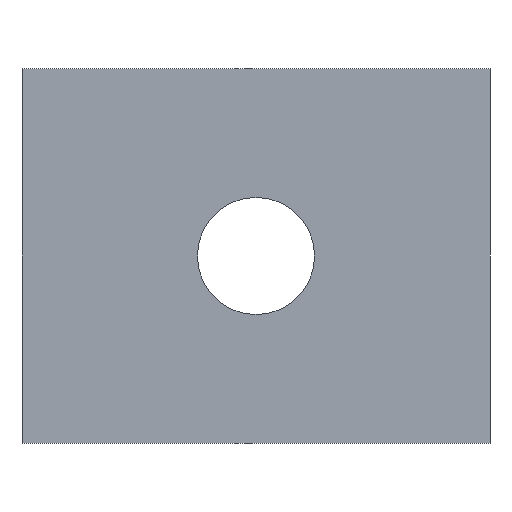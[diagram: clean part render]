
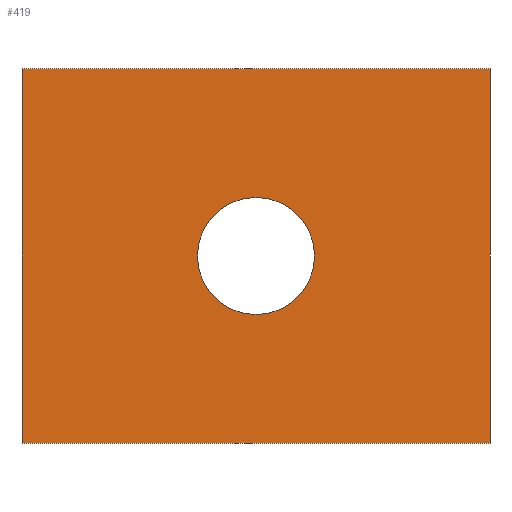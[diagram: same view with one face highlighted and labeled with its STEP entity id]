
A CAD part, left-side view. The second image highlights one B-rep face of the part: STEP entity #419.
In plain terms, the highlighted planar face has unit normal (-1, 0, 0).
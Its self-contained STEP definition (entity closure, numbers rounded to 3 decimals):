
#44 = PLANE('',#45);
#45 = AXIS2_PLACEMENT_3D('',#46,#47,#48);
#46 = CARTESIAN_POINT('',(97.1,-10.,0.));
#47 = DIRECTION('',(-0.,1.,0.));
#48 = DIRECTION('',(0.,0.,-1.));
#72 = PLANE('',#73);
#73 = AXIS2_PLACEMENT_3D('',#74,#75,#76);
#74 = CARTESIAN_POINT('',(97.1,-10.,0.));
#75 = DIRECTION('',(0.,0.,1.));
#76 = DIRECTION('',(1.,0.,0.));
#100 = PLANE('',#101);
#101 = AXIS2_PLACEMENT_3D('',#102,#103,#104);
#102 = CARTESIAN_POINT('',(97.1,10.,0.));
#103 = DIRECTION('',(-0.,1.,0.));
#104 = DIRECTION('',(0.,0.,-1.));
#126 = PLANE('',#127);
#127 = AXIS2_PLACEMENT_3D('',#128,#129,#130);
#128 = CARTESIAN_POINT('',(97.1,-10.,16.));
#129 = DIRECTION('',(0.,0.,1.));
#130 = DIRECTION('',(1.,0.,0.));
#157 = CYLINDRICAL_SURFACE('',#158,2.5);
#158 = AXIS2_PLACEMENT_3D('',#159,#160,#161);
#159 = CARTESIAN_POINT('',(98.1,0.,8.));
#160 = DIRECTION('',(1.,-0.,-0.));
#161 = DIRECTION('',(-0.,1.,-0.));
#173 = VERTEX_POINT('',#174);
#174 = CARTESIAN_POINT('',(94.3,-10.,0.));
#197 = VERTEX_POINT('',#198);
#198 = CARTESIAN_POINT('',(94.3,-10.,16.));
#219 = EDGE_CURVE('',#173,#197,#220,.T.);
#220 = SURFACE_CURVE('',#221,(#225,#232),.PCURVE_S1.);
#221 = LINE('',#222,#223);
#222 = CARTESIAN_POINT('',(94.3,-10.,0.));
#223 = VECTOR('',#224,1.);
#224 = DIRECTION('',(0.,0.,1.));
#225 = PCURVE('',#44,#226);
#226 = DEFINITIONAL_REPRESENTATION('',(#227),#231);
#227 = LINE('',#228,#229);
#228 = CARTESIAN_POINT('',(-0.,2.8));
#229 = VECTOR('',#230,1.);
#230 = DIRECTION('',(-1.,0.));
#231 = ( GEOMETRIC_REPRESENTATION_CONTEXT(2) 
PARAMETRIC_REPRESENTATION_CONTEXT() REPRESENTATION_CONTEXT('2D SPACE',''
  ) );
#232 = PCURVE('',#233,#238);
#233 = PLANE('',#234);
#234 = AXIS2_PLACEMENT_3D('',#235,#236,#237);
#235 = CARTESIAN_POINT('',(94.3,-10.,0.));
#236 = DIRECTION('',(-1.,-0.,0.));
#237 = DIRECTION('',(0.,0.,-1.));
#238 = DEFINITIONAL_REPRESENTATION('',(#239),#243);
#239 = LINE('',#240,#241);
#240 = CARTESIAN_POINT('',(-0.,-0.));
#241 = VECTOR('',#242,1.);
#242 = DIRECTION('',(-1.,-0.));
#243 = ( GEOMETRIC_REPRESENTATION_CONTEXT(2) 
PARAMETRIC_REPRESENTATION_CONTEXT() REPRESENTATION_CONTEXT('2D SPACE',''
  ) );
#250 = EDGE_CURVE('',#197,#251,#253,.T.);
#251 = VERTEX_POINT('',#252);
#252 = CARTESIAN_POINT('',(94.3,10.,16.));
#253 = SURFACE_CURVE('',#254,(#258,#265),.PCURVE_S1.);
#254 = LINE('',#255,#256);
#255 = CARTESIAN_POINT('',(94.3,-10.,16.));
#256 = VECTOR('',#257,1.);
#257 = DIRECTION('',(-0.,1.,0.));
#258 = PCURVE('',#126,#259);
#259 = DEFINITIONAL_REPRESENTATION('',(#260),#264);
#260 = LINE('',#261,#262);
#261 = CARTESIAN_POINT('',(-2.8,0.));
#262 = VECTOR('',#263,1.);
#263 = DIRECTION('',(-0.,1.));
#264 = ( GEOMETRIC_REPRESENTATION_CONTEXT(2) 
PARAMETRIC_REPRESENTATION_CONTEXT() REPRESENTATION_CONTEXT('2D SPACE',''
  ) );
#265 = PCURVE('',#233,#266);
#266 = DEFINITIONAL_REPRESENTATION('',(#267),#271);
#267 = LINE('',#268,#269);
#268 = CARTESIAN_POINT('',(-16.,-0.));
#269 = VECTOR('',#270,1.);
#270 = DIRECTION('',(-0.,-1.));
#271 = ( GEOMETRIC_REPRESENTATION_CONTEXT(2) 
PARAMETRIC_REPRESENTATION_CONTEXT() REPRESENTATION_CONTEXT('2D SPACE',''
  ) );
#299 = EDGE_CURVE('',#173,#300,#302,.T.);
#300 = VERTEX_POINT('',#301);
#301 = CARTESIAN_POINT('',(94.3,10.,0.));
#302 = SURFACE_CURVE('',#303,(#307,#314),.PCURVE_S1.);
#303 = LINE('',#304,#305);
#304 = CARTESIAN_POINT('',(94.3,-10.,0.));
#305 = VECTOR('',#306,1.);
#306 = DIRECTION('',(-0.,1.,0.));
#307 = PCURVE('',#72,#308);
#308 = DEFINITIONAL_REPRESENTATION('',(#309),#313);
#309 = LINE('',#310,#311);
#310 = CARTESIAN_POINT('',(-2.8,0.));
#311 = VECTOR('',#312,1.);
#312 = DIRECTION('',(-0.,1.));
#313 = ( GEOMETRIC_REPRESENTATION_CONTEXT(2) 
PARAMETRIC_REPRESENTATION_CONTEXT() REPRESENTATION_CONTEXT('2D SPACE',''
  ) );
#314 = PCURVE('',#233,#315);
#315 = DEFINITIONAL_REPRESENTATION('',(#316),#320);
#316 = LINE('',#317,#318);
#317 = CARTESIAN_POINT('',(-0.,-0.));
#318 = VECTOR('',#319,1.);
#319 = DIRECTION('',(-0.,-1.));
#320 = ( GEOMETRIC_REPRESENTATION_CONTEXT(2) 
PARAMETRIC_REPRESENTATION_CONTEXT() REPRESENTATION_CONTEXT('2D SPACE',''
  ) );
#349 = EDGE_CURVE('',#300,#251,#350,.T.);
#350 = SURFACE_CURVE('',#351,(#355,#362),.PCURVE_S1.);
#351 = LINE('',#352,#353);
#352 = CARTESIAN_POINT('',(94.3,10.,0.));
#353 = VECTOR('',#354,1.);
#354 = DIRECTION('',(0.,0.,1.));
#355 = PCURVE('',#100,#356);
#356 = DEFINITIONAL_REPRESENTATION('',(#357),#361);
#357 = LINE('',#358,#359);
#358 = CARTESIAN_POINT('',(-0.,2.8));
#359 = VECTOR('',#360,1.);
#360 = DIRECTION('',(-1.,0.));
#361 = ( GEOMETRIC_REPRESENTATION_CONTEXT(2) 
PARAMETRIC_REPRESENTATION_CONTEXT() REPRESENTATION_CONTEXT('2D SPACE',''
  ) );
#362 = PCURVE('',#233,#363);
#363 = DEFINITIONAL_REPRESENTATION('',(#364),#368);
#364 = LINE('',#365,#366);
#365 = CARTESIAN_POINT('',(-0.,-20.));
#366 = VECTOR('',#367,1.);
#367 = DIRECTION('',(-1.,-0.));
#368 = ( GEOMETRIC_REPRESENTATION_CONTEXT(2) 
PARAMETRIC_REPRESENTATION_CONTEXT() REPRESENTATION_CONTEXT('2D SPACE',''
  ) );
#375 = VERTEX_POINT('',#376);
#376 = CARTESIAN_POINT('',(94.3,2.5,8.));
#397 = EDGE_CURVE('',#375,#375,#398,.T.);
#398 = SURFACE_CURVE('',#399,(#404,#411),.PCURVE_S1.);
#399 = CIRCLE('',#400,2.5);
#400 = AXIS2_PLACEMENT_3D('',#401,#402,#403);
#401 = CARTESIAN_POINT('',(94.3,0.,8.));
#402 = DIRECTION('',(-1.,0.,0.));
#403 = DIRECTION('',(-0.,1.,-0.));
#404 = PCURVE('',#157,#405);
#405 = DEFINITIONAL_REPRESENTATION('',(#406),#410);
#406 = LINE('',#407,#408);
#407 = CARTESIAN_POINT('',(6.283,-3.8));
#408 = VECTOR('',#409,1.);
#409 = DIRECTION('',(-1.,0.));
#410 = ( GEOMETRIC_REPRESENTATION_CONTEXT(2) 
PARAMETRIC_REPRESENTATION_CONTEXT() REPRESENTATION_CONTEXT('2D SPACE',''
  ) );
#411 = PCURVE('',#233,#412);
#412 = DEFINITIONAL_REPRESENTATION('',(#413),#417);
#413 = CIRCLE('',#414,2.5);
#414 = AXIS2_PLACEMENT_2D('',#415,#416);
#415 = CARTESIAN_POINT('',(-8.,-10.));
#416 = DIRECTION('',(-0.,-1.));
#417 = ( GEOMETRIC_REPRESENTATION_CONTEXT(2) 
PARAMETRIC_REPRESENTATION_CONTEXT() REPRESENTATION_CONTEXT('2D SPACE',''
  ) );
#419 = ADVANCED_FACE('',(#420,#426),#233,.T.);
#420 = FACE_BOUND('',#421,.F.);
#421 = EDGE_LOOP('',(#422,#423,#424,#425));
#422 = ORIENTED_EDGE('',*,*,#219,.F.);
#423 = ORIENTED_EDGE('',*,*,#299,.T.);
#424 = ORIENTED_EDGE('',*,*,#349,.T.);
#425 = ORIENTED_EDGE('',*,*,#250,.F.);
#426 = FACE_BOUND('',#427,.F.);
#427 = EDGE_LOOP('',(#428));
#428 = ORIENTED_EDGE('',*,*,#397,.T.);
